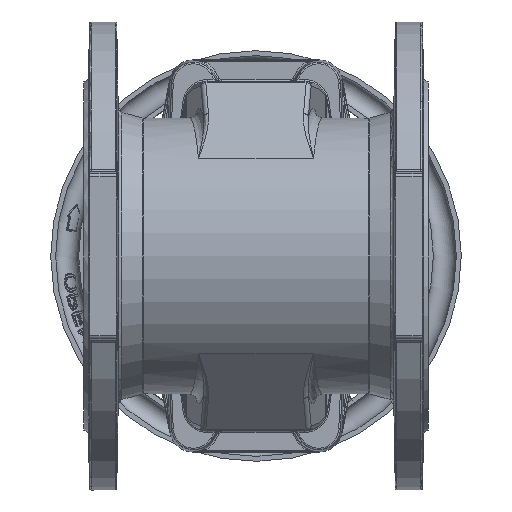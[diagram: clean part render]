
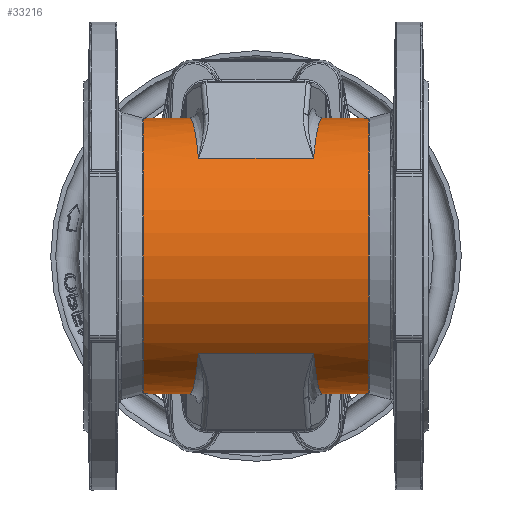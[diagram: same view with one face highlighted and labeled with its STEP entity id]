
A CAD part, front view. The second image highlights one B-rep face of the part: STEP entity #33216.
In plain terms, the highlighted cylindrical face has radius 84 mm (diameter 168 mm), a partial arc.
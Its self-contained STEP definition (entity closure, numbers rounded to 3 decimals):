
#33136 = ORIENTED_EDGE ( 'NONE', *, *, #33250, .T. ) ;
#33137 = EDGE_LOOP ( 'NONE', ( #33310, #33217, #33215, #33325, #33320, #33313, #33145, #33136, #33254, #33244, #33233, #33239 ) ) ;
#33140 = EDGE_CURVE ( 'NONE', #33218, #33213, #50597, .T. ) ;
#33145 = ORIENTED_EDGE ( 'NONE', *, *, #33322, .T. ) ;
#33162 = VERTEX_POINT ( 'NONE', #38865 ) ;
#33184 = VERTEX_POINT ( 'NONE', #39336 ) ;
#33190 = VERTEX_POINT ( 'NONE', #39338 ) ;
#33213 = VERTEX_POINT ( 'NONE', #50602 ) ;
#33214 = VERTEX_POINT ( 'NONE', #50601 ) ;
#33215 = ORIENTED_EDGE ( 'NONE', *, *, #33312, .T. ) ;
#33216 = ADVANCED_FACE ( 'NONE', ( #50600 ), #50579, .T. ) ;
#33217 = ORIENTED_EDGE ( 'NONE', *, *, #33311, .T. ) ;
#33218 = VERTEX_POINT ( 'NONE', #50605 ) ;
#33233 = ORIENTED_EDGE ( 'NONE', *, *, #33243, .T. ) ;
#33239 = ORIENTED_EDGE ( 'NONE', *, *, #33242, .F. ) ;
#33242 = EDGE_CURVE ( 'NONE', #33218, #33162, #51055, .T. ) ;
#33243 = EDGE_CURVE ( 'NONE', #33184, #33162, #51085, .T. ) ;
#33244 = ORIENTED_EDGE ( 'NONE', *, *, #33255, .T. ) ;
#33250 = EDGE_CURVE ( 'NONE', #33314, #33251, #51079, .T. ) ;
#33251 = VERTEX_POINT ( 'NONE', #51072 ) ;
#33254 = ORIENTED_EDGE ( 'NONE', *, *, #33257, .T. ) ;
#33255 = EDGE_CURVE ( 'NONE', #33190, #33184, #51108, .T. ) ;
#33257 = EDGE_CURVE ( 'NONE', #33251, #33190, #51116, .T. ) ;
#33308 = VERTEX_POINT ( 'NONE', #39795 ) ;
#33310 = ORIENTED_EDGE ( 'NONE', *, *, #33140, .T. ) ;
#33311 = EDGE_CURVE ( 'NONE', #33213, #33308, #39753, .T. ) ;
#33312 = EDGE_CURVE ( 'NONE', #33308, #33214, #39794, .T. ) ;
#33313 = ORIENTED_EDGE ( 'NONE', *, *, #33321, .T. ) ;
#33314 = VERTEX_POINT ( 'NONE', #51205 ) ;
#33315 = VERTEX_POINT ( 'NONE', #51241 ) ;
#33316 = VERTEX_POINT ( 'NONE', #51098 ) ;
#33320 = ORIENTED_EDGE ( 'NONE', *, *, #33326, .T. ) ;
#33321 = EDGE_CURVE ( 'NONE', #33324, #33315, #39786, .T. ) ;
#33322 = EDGE_CURVE ( 'NONE', #33315, #33314, #51303, .T. ) ;
#33323 = EDGE_CURVE ( 'NONE', #33214, #33316, #51296, .T. ) ;
#33324 = VERTEX_POINT ( 'NONE', #51297 ) ;
#33325 = ORIENTED_EDGE ( 'NONE', *, *, #33323, .T. ) ;
#33326 = EDGE_CURVE ( 'NONE', #33316, #33324, #51324, .T. ) ;
#38865 = CARTESIAN_POINT ( 'NONE',  ( -34.996, -59.397, -59.397 ) ) ;
#39336 = CARTESIAN_POINT ( 'NONE',  ( -48.418, 83.795, -5.86 ) ) ;
#39338 = CARTESIAN_POINT ( 'NONE',  ( -68.594, 83.795, -5.86 ) ) ;
#39722 = AXIS2_PLACEMENT_3D ( 'NONE', #39782, #51161, #51207 ) ;
#39753 = LINE ( 'NONE', #39781, #39780 ) ;
#39776 = DIRECTION ( 'NONE',  ( -1., 0., 0. ) ) ;
#39777 = VECTOR ( 'NONE', #39776, 1000. ) ;
#39779 = DIRECTION ( 'NONE',  ( 1., 0., 0. ) ) ;
#39780 = VECTOR ( 'NONE', #39779, 1000. ) ;
#39781 = CARTESIAN_POINT ( 'NONE',  ( 52.501, 83.795, -5.86 ) ) ;
#39782 = CARTESIAN_POINT ( 'NONE',  ( 68.594, 0., 0. ) ) ;
#39784 = CARTESIAN_POINT ( 'NONE',  ( 52.501, -59.397, 59.397 ) ) ;
#39786 = LINE ( 'NONE', #39784, #39777 ) ;
#39794 = CIRCLE ( 'NONE', #39722, 84. ) ;
#39795 = CARTESIAN_POINT ( 'NONE',  ( 68.594, 83.795, -5.86 ) ) ;
#50579 = CYLINDRICAL_SURFACE ( 'NONE', #50603, 84. ) ;
#50592 = CARTESIAN_POINT ( 'NONE',  ( 48.418, 83.795, -5.86 ) ) ;
#50593 = CARTESIAN_POINT ( 'NONE',  ( 47.872, 77.965, -89.222 ) ) ;
#50594 = CARTESIAN_POINT ( 'NONE',  ( 40.535, -0.308, -118.486 ) ) ;
#50595 = CARTESIAN_POINT ( 'NONE',  ( 34.996, -59.397, -59.397 ) ) ;
#50597 =( BOUNDED_CURVE ( )  B_SPLINE_CURVE ( 3, ( #50595, #50594, #50593, #50592 ),
 .UNSPECIFIED., .F., .T. ) 
 B_SPLINE_CURVE_WITH_KNOTS ( ( 4, 4 ),
 ( 0.785, 3.072 ),
 .UNSPECIFIED. ) 
 CURVE ( )  GEOMETRIC_REPRESENTATION_ITEM ( )  RATIONAL_B_SPLINE_CURVE ( ( 1., 0.61, 0.61, 1. ) ) 
 REPRESENTATION_ITEM ( '' )  );
#50600 = FACE_OUTER_BOUND ( 'NONE', #33137, .T. ) ;
#50601 = CARTESIAN_POINT ( 'NONE',  ( 68.594, 83.795, 5.86 ) ) ;
#50602 = CARTESIAN_POINT ( 'NONE',  ( 48.418, 83.795, -5.86 ) ) ;
#50603 = AXIS2_PLACEMENT_3D ( 'NONE', #50630, #50608, #50627 ) ;
#50605 = CARTESIAN_POINT ( 'NONE',  ( 34.996, -59.397, -59.397 ) ) ;
#50608 = DIRECTION ( 'NONE',  ( -1., 0., 0. ) ) ;
#50627 = DIRECTION ( 'NONE',  ( 0., 0., 1. ) ) ;
#50630 = CARTESIAN_POINT ( 'NONE',  ( 52.501, 0., 0. ) ) ;
#51052 = DIRECTION ( 'NONE',  ( -1., 0., 0. ) ) ;
#51053 = VECTOR ( 'NONE', #51052, 1000. ) ;
#51054 = CARTESIAN_POINT ( 'NONE',  ( 52.501, -59.397, -59.397 ) ) ;
#51055 = LINE ( 'NONE', #51054, #51053 ) ;
#51069 = DIRECTION ( 'NONE',  ( -1., 0., 0. ) ) ;
#51070 = VECTOR ( 'NONE', #51069, 1000. ) ;
#51071 = CARTESIAN_POINT ( 'NONE',  ( 52.501, 83.795, 5.86 ) ) ;
#51072 = CARTESIAN_POINT ( 'NONE',  ( -68.594, 83.795, 5.86 ) ) ;
#51079 = LINE ( 'NONE', #51071, #51070 ) ;
#51080 = CARTESIAN_POINT ( 'NONE',  ( -34.996, -59.397, -59.397 ) ) ;
#51081 = CARTESIAN_POINT ( 'NONE',  ( -40.535, -0.308, -118.486 ) ) ;
#51082 = CARTESIAN_POINT ( 'NONE',  ( -47.872, 77.965, -89.222 ) ) ;
#51083 = CARTESIAN_POINT ( 'NONE',  ( -48.418, 83.795, -5.86 ) ) ;
#51085 =( BOUNDED_CURVE ( )  B_SPLINE_CURVE ( 3, ( #51083, #51082, #51081, #51080 ),
 .UNSPECIFIED., .F., .T. ) 
 B_SPLINE_CURVE_WITH_KNOTS ( ( 4, 4 ),
 ( 0.07, 2.356 ),
 .UNSPECIFIED. ) 
 CURVE ( )  GEOMETRIC_REPRESENTATION_ITEM ( )  RATIONAL_B_SPLINE_CURVE ( ( 1., 0.61, 0.61, 1. ) ) 
 REPRESENTATION_ITEM ( '' )  );
#51096 = DIRECTION ( 'NONE',  ( 0., 0., 1. ) ) ;
#51097 = DIRECTION ( 'NONE',  ( 1., 0., 0. ) ) ;
#51098 = CARTESIAN_POINT ( 'NONE',  ( 48.418, 83.795, 5.86 ) ) ;
#51105 = DIRECTION ( 'NONE',  ( 1., 0., 0. ) ) ;
#51106 = VECTOR ( 'NONE', #51105, 1000. ) ;
#51107 = CARTESIAN_POINT ( 'NONE',  ( 52.501, 83.795, -5.86 ) ) ;
#51108 = LINE ( 'NONE', #51107, #51106 ) ;
#51116 = CIRCLE ( 'NONE', #51117, 84. ) ;
#51117 = AXIS2_PLACEMENT_3D ( 'NONE', #51119, #51097, #51096 ) ;
#51119 = CARTESIAN_POINT ( 'NONE',  ( -68.594, 0., 0. ) ) ;
#51161 = DIRECTION ( 'NONE',  ( -1., 0., 0. ) ) ;
#51205 = CARTESIAN_POINT ( 'NONE',  ( -48.418, 83.795, 5.86 ) ) ;
#51207 = DIRECTION ( 'NONE',  ( 0., 0., 1. ) ) ;
#51241 = CARTESIAN_POINT ( 'NONE',  ( -34.996, -59.397, 59.397 ) ) ;
#51293 = DIRECTION ( 'NONE',  ( -1., 0., 0. ) ) ;
#51294 = VECTOR ( 'NONE', #51293, 1000. ) ;
#51295 = CARTESIAN_POINT ( 'NONE',  ( 52.501, 83.795, 5.86 ) ) ;
#51296 = LINE ( 'NONE', #51295, #51294 ) ;
#51297 = CARTESIAN_POINT ( 'NONE',  ( 34.996, -59.397, 59.397 ) ) ;
#51298 = CARTESIAN_POINT ( 'NONE',  ( -48.418, 83.795, 5.86 ) ) ;
#51299 = CARTESIAN_POINT ( 'NONE',  ( -47.872, 77.965, 89.222 ) ) ;
#51300 = CARTESIAN_POINT ( 'NONE',  ( -40.535, -0.308, 118.486 ) ) ;
#51301 = CARTESIAN_POINT ( 'NONE',  ( -34.996, -59.397, 59.397 ) ) ;
#51303 =( BOUNDED_CURVE ( )  B_SPLINE_CURVE ( 3, ( #51301, #51300, #51299, #51298 ),
 .UNSPECIFIED., .F., .T. ) 
 B_SPLINE_CURVE_WITH_KNOTS ( ( 4, 4 ),
 ( 3.927, 6.213 ),
 .UNSPECIFIED. ) 
 CURVE ( )  GEOMETRIC_REPRESENTATION_ITEM ( )  RATIONAL_B_SPLINE_CURVE ( ( 1., 0.61, 0.61, 1. ) ) 
 REPRESENTATION_ITEM ( '' )  );
#51319 = CARTESIAN_POINT ( 'NONE',  ( 34.996, -59.397, 59.397 ) ) ;
#51320 = CARTESIAN_POINT ( 'NONE',  ( 40.535, -0.308, 118.486 ) ) ;
#51321 = CARTESIAN_POINT ( 'NONE',  ( 47.872, 77.965, 89.222 ) ) ;
#51322 = CARTESIAN_POINT ( 'NONE',  ( 48.418, 83.795, 5.86 ) ) ;
#51324 =( BOUNDED_CURVE ( )  B_SPLINE_CURVE ( 3, ( #51322, #51321, #51320, #51319 ),
 .UNSPECIFIED., .F., .F. ) 
 B_SPLINE_CURVE_WITH_KNOTS ( ( 4, 4 ),
 ( 3.211, 5.498 ),
 .UNSPECIFIED. ) 
 CURVE ( )  GEOMETRIC_REPRESENTATION_ITEM ( )  RATIONAL_B_SPLINE_CURVE ( ( 1., 0.61, 0.61, 1. ) ) 
 REPRESENTATION_ITEM ( '' )  );
